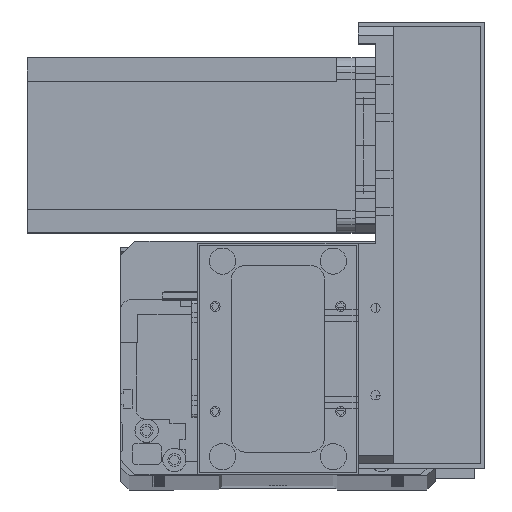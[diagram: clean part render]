
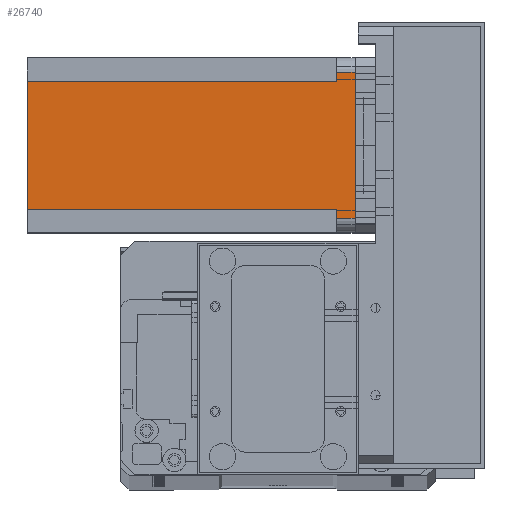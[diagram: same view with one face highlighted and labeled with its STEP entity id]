
A CAD part, top view. The second image highlights one B-rep face of the part: STEP entity #26740.
In plain terms, the highlighted planar face has unit normal (0, 0, 1) as drawn and (0, 1, 0) by its records, which use the part's own axes.
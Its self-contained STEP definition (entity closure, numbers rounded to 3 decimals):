
#1475 = CARTESIAN_POINT ( 'NONE',  ( 0., 60., 0. ) ) ;
#1562 = VECTOR ( 'NONE', #25684, 1000. ) ;
#1805 = VERTEX_POINT ( 'NONE', #12685 ) ;
#2466 = EDGE_CURVE ( 'NONE', #3978, #2920, #9234, .T. ) ;
#2920 = VERTEX_POINT ( 'NONE', #3373 ) ;
#3156 = LINE ( 'NONE', #6507, #30634 ) ;
#3179 = ORIENTED_EDGE ( 'NONE', *, *, #12585, .T. ) ;
#3372 = ORIENTED_EDGE ( 'NONE', *, *, #12111, .F. ) ;
#3373 = CARTESIAN_POINT ( 'NONE',  ( 8., 60., -112.5 ) ) ;
#3978 = VERTEX_POINT ( 'NONE', #14577 ) ;
#5886 = VERTEX_POINT ( 'NONE', #19826 ) ;
#6493 = DIRECTION ( 'NONE',  ( 0., 0., 1. ) ) ;
#6507 = CARTESIAN_POINT ( 'NONE',  ( 5., 60., -112.5 ) ) ;
#6856 = CARTESIAN_POINT ( 'NONE',  ( 52., 60., -112.5 ) ) ;
#7228 = ORIENTED_EDGE ( 'NONE', *, *, #9252, .T. ) ;
#7420 = CARTESIAN_POINT ( 'NONE',  ( 0., 60., -112.5 ) ) ;
#8274 = VECTOR ( 'NONE', #6493, 1000. ) ;
#8672 = EDGE_LOOP ( 'NONE', ( #29211, #10131, #17971, #16181, #33820, #3372, #7228, #3179 ) ) ;
#9234 = LINE ( 'NONE', #7420, #15430 ) ;
#9252 = EDGE_CURVE ( 'NONE', #5886, #24570, #23133, .T. ) ;
#9433 = DIRECTION ( 'NONE',  ( 1., 0., 0. ) ) ;
#10131 = ORIENTED_EDGE ( 'NONE', *, *, #27738, .T. ) ;
#10301 = CARTESIAN_POINT ( 'NONE',  ( 5., 60., 0. ) ) ;
#11885 = CARTESIAN_POINT ( 'NONE',  ( 0., 60., -112.5 ) ) ;
#11954 = VECTOR ( 'NONE', #9433, 1000. ) ;
#12111 = EDGE_CURVE ( 'NONE', #5886, #2920, #22736, .T. ) ;
#12396 = FACE_OUTER_BOUND ( 'NONE', #8672, .T. ) ;
#12585 = EDGE_CURVE ( 'NONE', #24570, #15417, #3156, .T. ) ;
#12685 = CARTESIAN_POINT ( 'NONE',  ( 52., 60., -6.5 ) ) ;
#13229 = VECTOR ( 'NONE', #20026, 1000. ) ;
#13308 = DIRECTION ( 'NONE',  ( 0., 0., -1. ) ) ;
#14525 = DIRECTION ( 'NONE',  ( 0., 0., 1. ) ) ;
#14577 = CARTESIAN_POINT ( 'NONE',  ( 52., 60., -112.5 ) ) ;
#14597 = VERTEX_POINT ( 'NONE', #30829 ) ;
#15384 = CARTESIAN_POINT ( 'NONE',  ( 55., 60., -6.5 ) ) ;
#15417 = VERTEX_POINT ( 'NONE', #10301 ) ;
#15430 = VECTOR ( 'NONE', #31114, 1000. ) ;
#15832 = CARTESIAN_POINT ( 'NONE',  ( 55., 60., -112.5 ) ) ;
#16000 = LINE ( 'NONE', #15832, #29334 ) ;
#16181 = ORIENTED_EDGE ( 'NONE', *, *, #18425, .F. ) ;
#17459 = CARTESIAN_POINT ( 'NONE',  ( 8., 60., -6.5 ) ) ;
#17633 = CARTESIAN_POINT ( 'NONE',  ( 8., 60., -112.5 ) ) ;
#17971 = ORIENTED_EDGE ( 'NONE', *, *, #19514, .F. ) ;
#18425 = EDGE_CURVE ( 'NONE', #3978, #1805, #24052, .T. ) ;
#19514 = EDGE_CURVE ( 'NONE', #1805, #24276, #33175, .T. ) ;
#19826 = CARTESIAN_POINT ( 'NONE',  ( 8., 60., -6.5 ) ) ;
#20026 = DIRECTION ( 'NONE',  ( -1., 0., 0. ) ) ;
#20159 = DIRECTION ( 'NONE',  ( -1., 0., 0. ) ) ;
#20295 = LINE ( 'NONE', #1475, #13229 ) ;
#20961 = AXIS2_PLACEMENT_3D ( 'NONE', #11885, #30479, #14525 ) ;
#22126 = CARTESIAN_POINT ( 'NONE',  ( 5., 60., -6.5 ) ) ;
#22736 = LINE ( 'NONE', #17633, #1562 ) ;
#23133 = LINE ( 'NONE', #17459, #30220 ) ;
#24052 = LINE ( 'NONE', #6856, #8274 ) ;
#24276 = VERTEX_POINT ( 'NONE', #15384 ) ;
#24570 = VERTEX_POINT ( 'NONE', #22126 ) ;
#25070 = DIRECTION ( 'NONE',  ( 0., 0., 1. ) ) ;
#25124 = PLANE ( 'NONE',  #20961 ) ;
#25340 = CARTESIAN_POINT ( 'NONE',  ( 52., 60., -6.5 ) ) ;
#25684 = DIRECTION ( 'NONE',  ( 0., 0., -1. ) ) ;
#26203 = EDGE_CURVE ( 'NONE', #14597, #15417, #20295, .T. ) ;
#26740 = ADVANCED_FACE ( 'NONE', ( #12396 ), #25124, .T. ) ;
#27738 = EDGE_CURVE ( 'NONE', #14597, #24276, #16000, .T. ) ;
#29211 = ORIENTED_EDGE ( 'NONE', *, *, #26203, .F. ) ;
#29334 = VECTOR ( 'NONE', #13308, 1000. ) ;
#30220 = VECTOR ( 'NONE', #20159, 1000. ) ;
#30479 = DIRECTION ( 'NONE',  ( 0., 1., 0. ) ) ;
#30634 = VECTOR ( 'NONE', #25070, 1000. ) ;
#30829 = CARTESIAN_POINT ( 'NONE',  ( 55., 60., 0. ) ) ;
#31114 = DIRECTION ( 'NONE',  ( -1., 0., 0. ) ) ;
#33175 = LINE ( 'NONE', #25340, #11954 ) ;
#33820 = ORIENTED_EDGE ( 'NONE', *, *, #2466, .T. ) ;
